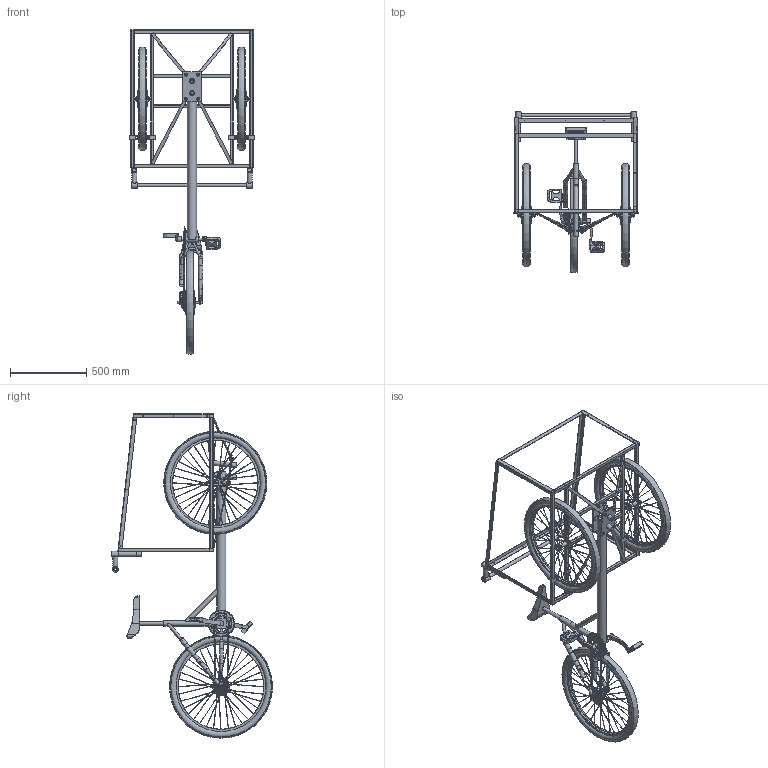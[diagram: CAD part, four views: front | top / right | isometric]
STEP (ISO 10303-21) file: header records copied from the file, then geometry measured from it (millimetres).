
FILE_DESCRIPTION(/* description */ ('tricycle cargo bike B'),/* implementation_level */ '2;1');
FILE_NAME(/* name */ 'C:\Users\Apardo\Documents\Proyectos\Dietrich\Proyecto 1\tricycle cargo bike B\STEP\tricycle cargo bike B.stp',/* time_stamp */ '2021-02-07T09:23:33-04:00',/* author */ ('Apardo'),/* organization */ (''),/* preprocessor_version */ 'ST-DEVELOPER v18',/* originating_system */ 'Autodesk Inventor 2020',/* authorisation */ '');
FILE_SCHEMA (('AUTOMOTIVE_DESIGN { 1 0 10303 214 3 1 1 }'));
Length unit declared in the file: millimetre
Products named in the file (39): tricycle cargo bike B; Assembly1-tricycle cargo bike B; wl_lacb_1.3_Angle-profile-box; wl_lacb_1.1_Down-tube; wl_lacb_1.2_Head-tube; wl_lacb_1.4_Reinforcement-pipe; Assembly2-tricycle cargo bike B; wl_lacb_2.1_Parts-box-bottom; wl_lacb_2.8_Parts-box-bottom; wl_lacb_2.9_Parts-box-bottom; wl_lacb_2.10_Parts-box-bottom; wl_lacb_2.2_Wheel-mount; wl_lacb_2.3_Brake-holder; wl_lacb_2.4_Angle-profile-box; wl_lacb_2.13_Angle-profile-box; wl_lacb_2.12_Angle-profile-box; wl_lacb_2.11_Angle-profile-box; wl_lacb_2.6_Steering-handle; wl_lacb_2.5_Stem-mounting; wl_lacb_2.7_Wall-plate-holder; Assembly3-tricycle cargo bike B; wl_lacb_3.1_Head tube-plate; wl_lacb_3.2_Handlebar; wl_lacb_3.3_Security tube; Assembly4-tricycle cargo bike B; wl_lacb_4.1_Security-plate; wl_lacb_24.2_Stru; wl_lacb_4.3_Strut; ASME B18.21.2M - 10, LWSHHSLW; ANSI B18.2.4.5M - M10 x 1.5; ANSI B18.2.3.5M - M10 x 1,5 x 20; mountainbike_blue_02; mountainbike_blue_01; mountainbike_blue_06; mountainbike_blue_11; mountainbike_blue_08; mountainbike_blue_04; mountainbike_blue_05; mountainbike_blue_13
Assembly tree (67 placements, depth 3):
  tricycle cargo bike B
    Assembly1-tricycle cargo bike B
      wl_lacb_1.3_Angle-profile-box
      wl_lacb_1.1_Down-tube
      wl_lacb_1.2_Head-tube
      wl_lacb_1.4_Reinforcement-pipe
    Assembly2-tricycle cargo bike B
      wl_lacb_2.1_Parts-box-bottom  x2
      wl_lacb_2.8_Parts-box-bottom  x2
      wl_lacb_2.9_Parts-box-bottom  x2
      wl_lacb_2.10_Parts-box-bottom  x2
      wl_lacb_2.2_Wheel-mount  x4
      wl_lacb_2.3_Brake-holder  x4
      wl_lacb_2.4_Angle-profile-box  x2
      wl_lacb_2.12_Angle-profile-box  x2
      wl_lacb_2.13_Angle-profile-box  x2
      wl_lacb_2.11_Angle-profile-box  x2
      wl_lacb_2.5_Stem-mounting  x2
      wl_lacb_2.6_Steering-handle
      wl_lacb_2.7_Wall-plate-holder  x2
    Assembly3-tricycle cargo bike B
      wl_lacb_3.1_Head tube-plate
      wl_lacb_3.2_Handlebar
      wl_lacb_3.3_Security tube
    Assembly4-tricycle cargo bike B
      wl_lacb_4.1_Security-plate
      wl_lacb_24.2_Stru  x2
      wl_lacb_4.3_Strut  x2
      ASME B18.21.2M - 10, LWSHHSLW  x4
      ANSI B18.2.4.5M - M10 x 1.5  x4
      ANSI B18.2.3.5M - M10 x 1,5 x 20  x4
    mountainbike_blue_01  x2
    mountainbike_blue_02
    mountainbike_blue_06
    mountainbike_blue_08  x2
    mountainbike_blue_11
    mountainbike_blue_04
    mountainbike_blue_05
    mountainbike_blue_13
Bounding box: 826 x 1057.58 x 2130.5 mm (x, y, z)
Volume: 19377617.7 mm3; surface area: 4227888.6 mm2
Topology: 63 solids, 63 shells, 2310 faces, 7200 edges, 4768 vertices
Faces by surface type: plane 1268, cylinder 893, cone 122, torus 13, bspline 8, sphere 6
Full cylindrical faces by diameter (mm): 1.9 x342, 3 x4, 4.5 x24, 8.376 x4, 10 x16, 12 x4, 12.8 x1, 13.5 x1, 14 x2, 14.6 x2, 15 x6, 15.8 x1, 18 x5, 18.8 x6, 19.4 x2, 20 x1, 22 x1, 23.05 x2, 23.2 x2, 24 x1, 25.2 x2, 25.4 x1, 26 x8, 26.7 x2, 29.7 x1, 30 x7, 30.45 x2, 31 x4, 33.7 x3, 34.6 x1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
Entity records: 71374 total; most frequent: CARTESIAN_POINT 16843, ORIENTED_EDGE 11056, DIRECTION 10954, EDGE_CURVE 5528, AXIS2_PLACEMENT_3D 3877, VERTEX_POINT 3677, LINE 3200, VECTOR 3200
